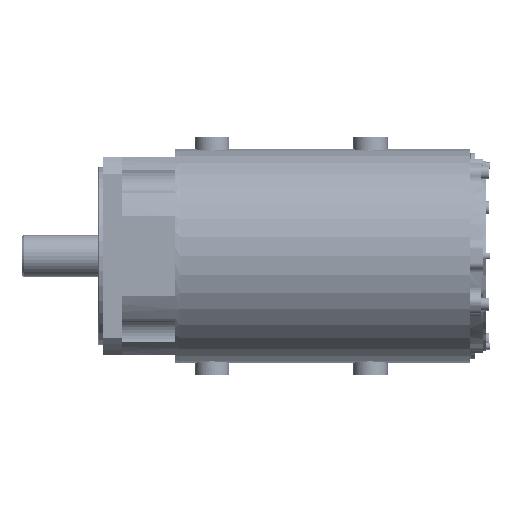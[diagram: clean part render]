
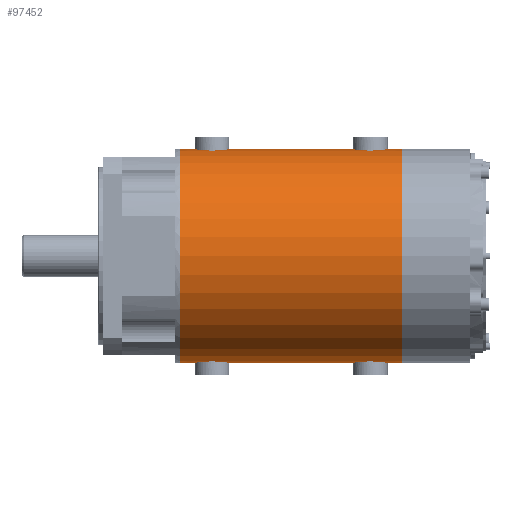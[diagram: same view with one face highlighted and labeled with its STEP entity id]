
A CAD part, front view. The second image highlights one B-rep face of the part: STEP entity #97452.
In plain terms, the highlighted cylindrical face has radius 108 mm (diameter 216 mm), a partial arc.
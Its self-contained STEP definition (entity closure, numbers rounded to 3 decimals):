
#93733=CARTESIAN_POINT('',(120.,0.,108.));
#93734=CARTESIAN_POINT('',(120.,-0.801,108.));
#93735=CARTESIAN_POINT('',(119.817,-2.364,
107.983));
#93736=CARTESIAN_POINT('',(118.944,-4.697,
107.905));
#93737=CARTESIAN_POINT('',(117.553,-6.696,
107.797));
#93738=CARTESIAN_POINT('',(115.777,-8.281,
107.685));
#93739=CARTESIAN_POINT('',(113.577,-9.45,
107.587));
#93740=CARTESIAN_POINT('',(111.175,-10.026,
107.534));
#93741=CARTESIAN_POINT('',(108.819,-10.025,
107.534));
#93742=CARTESIAN_POINT('',(106.42,-9.449,
107.587));
#93743=CARTESIAN_POINT('',(104.214,-8.277,
107.685));
#93744=CARTESIAN_POINT('',(102.434,-6.681,
107.798));
#93745=CARTESIAN_POINT('',(101.054,-4.691,
107.906));
#93746=CARTESIAN_POINT('',(100.183,-2.362,
107.983));
#93747=CARTESIAN_POINT('',(100.,-0.801,108.));
#93748=CARTESIAN_POINT('',(100.,0.,108.));
#93750=CARTESIAN_POINT('',(280.,0.,108.));
#93751=CARTESIAN_POINT('',(280.,-0.801,108.));
#93752=CARTESIAN_POINT('',(279.817,-2.364,
107.983));
#93753=CARTESIAN_POINT('',(278.944,-4.697,
107.905));
#93754=CARTESIAN_POINT('',(277.553,-6.696,
107.797));
#93755=CARTESIAN_POINT('',(275.777,-8.281,
107.685));
#93756=CARTESIAN_POINT('',(273.577,-9.45,
107.587));
#93757=CARTESIAN_POINT('',(271.175,-10.026,
107.534));
#93758=CARTESIAN_POINT('',(268.819,-10.025,
107.534));
#93759=CARTESIAN_POINT('',(266.42,-9.449,
107.587));
#93760=CARTESIAN_POINT('',(264.214,-8.277,
107.685));
#93761=CARTESIAN_POINT('',(262.434,-6.681,
107.798));
#93762=CARTESIAN_POINT('',(261.054,-4.691,
107.906));
#93763=CARTESIAN_POINT('',(260.183,-2.362,
107.983));
#93764=CARTESIAN_POINT('',(260.,-0.801,108.));
#93765=CARTESIAN_POINT('',(260.,0.,108.));
#93767=CARTESIAN_POINT('',(302.,0.,0.));
#93768=DIRECTION('',(1.,0.,0.));
#93769=DIRECTION('',(0.,0.,1.));
#93770=AXIS2_PLACEMENT_3D('',#93767,#93768,#93769);
#93772=DIRECTION('',(-1.,0.,0.));
#93773=VECTOR('',#93772,22.);
#93774=CARTESIAN_POINT('',(302.,0.,-108.));
#93775=LINE('',#93774,#93773);
#93776=CARTESIAN_POINT('',(260.,0.,-108.));
#93777=CARTESIAN_POINT('',(260.,-0.801,-108.));
#93778=CARTESIAN_POINT('',(260.183,-2.362,
-107.983));
#93779=CARTESIAN_POINT('',(261.053,-4.69,
-107.906));
#93780=CARTESIAN_POINT('',(262.434,-6.681,
-107.798));
#93781=CARTESIAN_POINT('',(264.214,-8.277,
-107.685));
#93782=CARTESIAN_POINT('',(266.419,-9.448,
-107.587));
#93783=CARTESIAN_POINT('',(268.818,-10.025,
-107.534));
#93784=CARTESIAN_POINT('',(271.174,-10.026,
-107.534));
#93785=CARTESIAN_POINT('',(273.577,-9.45,
-107.587));
#93786=CARTESIAN_POINT('',(275.777,-8.281,
-107.685));
#93787=CARTESIAN_POINT('',(277.553,-6.696,
-107.797));
#93788=CARTESIAN_POINT('',(278.944,-4.697,
-107.905));
#93789=CARTESIAN_POINT('',(279.817,-2.364,
-107.983));
#93790=CARTESIAN_POINT('',(280.,-0.801,-108.));
#93791=CARTESIAN_POINT('',(280.,0.,-108.));
#93793=DIRECTION('',(-1.,0.,0.));
#93794=VECTOR('',#93793,140.);
#93795=CARTESIAN_POINT('',(260.,0.,-108.));
#93796=LINE('',#93795,#93794);
#93797=CARTESIAN_POINT('',(100.,0.,-108.));
#93798=CARTESIAN_POINT('',(100.,-0.801,-108.));
#93799=CARTESIAN_POINT('',(100.183,-2.362,
-107.983));
#93800=CARTESIAN_POINT('',(101.053,-4.69,
-107.906));
#93801=CARTESIAN_POINT('',(102.434,-6.681,
-107.798));
#93802=CARTESIAN_POINT('',(104.214,-8.277,
-107.685));
#93803=CARTESIAN_POINT('',(106.419,-9.448,
-107.587));
#93804=CARTESIAN_POINT('',(108.818,-10.025,
-107.534));
#93805=CARTESIAN_POINT('',(111.174,-10.026,
-107.534));
#93806=CARTESIAN_POINT('',(113.577,-9.45,
-107.587));
#93807=CARTESIAN_POINT('',(115.777,-8.281,
-107.685));
#93808=CARTESIAN_POINT('',(117.553,-6.696,
-107.797));
#93809=CARTESIAN_POINT('',(118.944,-4.697,
-107.905));
#93810=CARTESIAN_POINT('',(119.817,-2.364,
-107.983));
#93811=CARTESIAN_POINT('',(120.,-0.801,-108.));
#93812=CARTESIAN_POINT('',(120.,0.,-108.));
#93814=DIRECTION('',(-1.,0.,0.));
#93815=VECTOR('',#93814,22.);
#93816=CARTESIAN_POINT('',(100.,0.,-108.));
#93817=LINE('',#93816,#93815);
#93818=CARTESIAN_POINT('',(78.,0.,0.));
#93819=DIRECTION('',(-1.,0.,0.));
#93820=DIRECTION('',(0.,0.,-1.));
#93821=AXIS2_PLACEMENT_3D('',#93818,#93819,#93820);
#97026=DIRECTION('',(-1.,0.,0.));
#97027=VECTOR('',#97026,22.);
#97028=CARTESIAN_POINT('',(100.,0.,108.));
#97029=LINE('',#97028,#97027);
#97074=DIRECTION('',(-1.,0.,0.));
#97075=VECTOR('',#97074,22.);
#97076=CARTESIAN_POINT('',(302.,0.,108.));
#97077=LINE('',#97076,#97075);
#97095=DIRECTION('',(-1.,0.,0.));
#97096=VECTOR('',#97095,140.);
#97097=CARTESIAN_POINT('',(260.,0.,108.));
#97098=LINE('',#97097,#97096);
#97135=CARTESIAN_POINT('',(302.,0.,-108.));
#97136=CARTESIAN_POINT('',(302.,0.,108.));
#97137=VERTEX_POINT('',#97135);
#97138=VERTEX_POINT('',#97136);
#97139=CARTESIAN_POINT('',(78.,0.,-108.));
#97140=CARTESIAN_POINT('',(78.,0.,108.));
#97141=VERTEX_POINT('',#97139);
#97142=VERTEX_POINT('',#97140);
#97397=VERTEX_POINT('',#93797);
#97398=VERTEX_POINT('',#93812);
#97399=VERTEX_POINT('',#93776);
#97400=VERTEX_POINT('',#93791);
#97405=CARTESIAN_POINT('',(120.,0.,108.));
#97407=VERTEX_POINT('',#97405);
#97409=CARTESIAN_POINT('',(100.,0.,108.));
#97411=VERTEX_POINT('',#97409);
#97413=CARTESIAN_POINT('',(280.,0.,108.));
#97415=VERTEX_POINT('',#97413);
#97417=CARTESIAN_POINT('',(260.,0.,108.));
#97419=VERTEX_POINT('',#97417);
#97421=CARTESIAN_POINT('',(302.,0.,0.));
#97422=DIRECTION('',(-1.,0.,0.));
#97423=DIRECTION('',(0.,0.,-1.));
#97424=AXIS2_PLACEMENT_3D('',#97421,#97422,#97423);
#97425=CYLINDRICAL_SURFACE('',#97424,108.);
#97427=ORIENTED_EDGE('',*,*,#97426,.F.);
#97429=ORIENTED_EDGE('',*,*,#97428,.F.);
#97431=ORIENTED_EDGE('',*,*,#97430,.F.);
#97433=ORIENTED_EDGE('',*,*,#97432,.F.);
#97435=ORIENTED_EDGE('',*,*,#97434,.T.);
#97437=ORIENTED_EDGE('',*,*,#97436,.T.);
#97439=ORIENTED_EDGE('',*,*,#97438,.F.);
#97441=ORIENTED_EDGE('',*,*,#97440,.T.);
#97443=ORIENTED_EDGE('',*,*,#97442,.F.);
#97445=ORIENTED_EDGE('',*,*,#97444,.T.);
#97447=ORIENTED_EDGE('',*,*,#97446,.T.);
#97449=ORIENTED_EDGE('',*,*,#97448,.F.);
#97450=EDGE_LOOP('',(#97427,#97429,#97431,#97433,#97435,#97437,#97439,#97441,
#97443,#97445,#97447,#97449));
#97451=FACE_OUTER_BOUND('',#97450,.F.);
#97452=ADVANCED_FACE('',(#97451),#97425,.T.);
#93749=B_SPLINE_CURVE_WITH_KNOTS('',3,(#93733,#93734,#93735,#93736,#93737,
#93738,#93739,#93740,#93741,#93742,#93743,#93744,#93745,#93746,#93747,#93748),
.UNSPECIFIED.,.F.,.F.,(4,1,1,1,1,1,1,1,1,1,1,1,1,4),(0.,0.077,
0.154,0.231,0.308,0.385,
0.462,0.538,0.615,0.692,
0.769,0.846,0.923,1.),.UNSPECIFIED.);
#93766=B_SPLINE_CURVE_WITH_KNOTS('',3,(#93750,#93751,#93752,#93753,#93754,
#93755,#93756,#93757,#93758,#93759,#93760,#93761,#93762,#93763,#93764,#93765),
.UNSPECIFIED.,.F.,.F.,(4,1,1,1,1,1,1,1,1,1,1,1,1,4),(0.,0.077,
0.154,0.231,0.308,0.385,
0.462,0.538,0.615,0.692,
0.769,0.846,0.923,1.),.UNSPECIFIED.);
#93771=CIRCLE('',#93770,108.);
#93792=B_SPLINE_CURVE_WITH_KNOTS('',3,(#93776,#93777,#93778,#93779,#93780,
#93781,#93782,#93783,#93784,#93785,#93786,#93787,#93788,#93789,#93790,#93791),
.UNSPECIFIED.,.F.,.F.,(4,1,1,1,1,1,1,1,1,1,1,1,1,4),(0.,0.077,
0.154,0.231,0.308,0.385,
0.462,0.538,0.615,0.692,
0.769,0.846,0.923,1.),.UNSPECIFIED.);
#93813=B_SPLINE_CURVE_WITH_KNOTS('',3,(#93797,#93798,#93799,#93800,#93801,
#93802,#93803,#93804,#93805,#93806,#93807,#93808,#93809,#93810,#93811,#93812),
.UNSPECIFIED.,.F.,.F.,(4,1,1,1,1,1,1,1,1,1,1,1,1,4),(0.,0.077,
0.154,0.231,0.308,0.385,
0.462,0.538,0.615,0.692,
0.769,0.846,0.923,1.),.UNSPECIFIED.);
#93822=CIRCLE('',#93821,108.);
#97426=EDGE_CURVE('',#97407,#97411,#93749,.T.);
#97428=EDGE_CURVE('',#97419,#97407,#97098,.T.);
#97430=EDGE_CURVE('',#97415,#97419,#93766,.T.);
#97432=EDGE_CURVE('',#97138,#97415,#97077,.T.);
#97434=EDGE_CURVE('',#97138,#97137,#93771,.T.);
#97436=EDGE_CURVE('',#97137,#97400,#93775,.T.);
#97438=EDGE_CURVE('',#97399,#97400,#93792,.T.);
#97440=EDGE_CURVE('',#97399,#97398,#93796,.T.);
#97442=EDGE_CURVE('',#97397,#97398,#93813,.T.);
#97444=EDGE_CURVE('',#97397,#97141,#93817,.T.);
#97446=EDGE_CURVE('',#97141,#97142,#93822,.T.);
#97448=EDGE_CURVE('',#97411,#97142,#97029,.T.);
